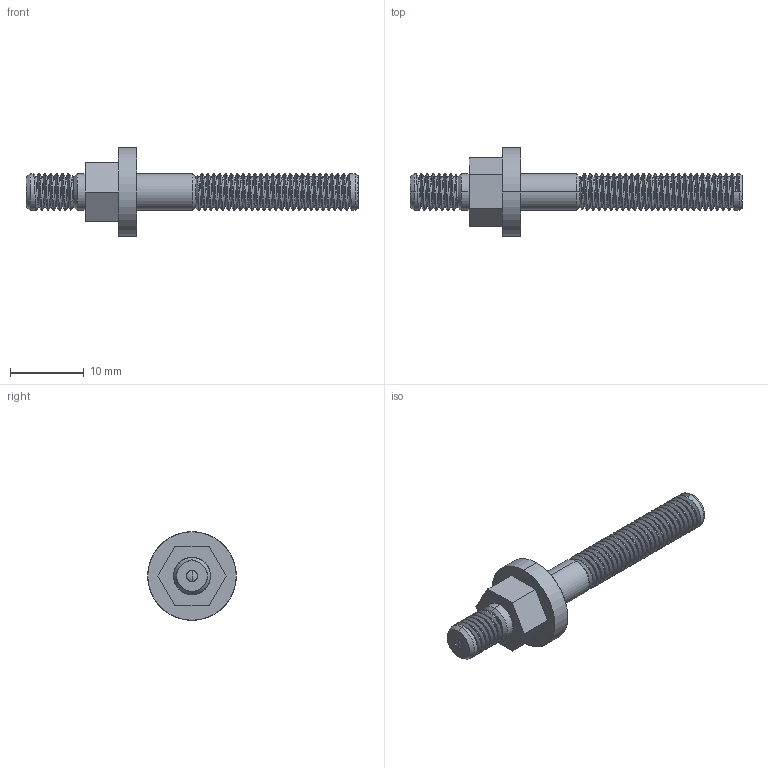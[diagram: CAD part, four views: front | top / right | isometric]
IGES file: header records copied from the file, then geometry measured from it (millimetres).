
Start section: SolidWorks IGES file using analytic representation for surfaces
Global section: file name: E:\00. WORK\04. 堡拳捞滚\堡拳捞滚 OMD\02. 权其捞瘤 档搁\3D\36.FU-VC02\FU-VC02.IGS,15HSolidWorks; native system: 2018; preprocessor: SolidWorks 2018; author: 10116024; date: 201209.165337; units: millimetre
Bounding box: 45 x 12 x 12 mm (x, y, z)
Surface area: 1292.2 mm2 (no closed solid volume)
Topology: 0 solids, 0 shells, 122 faces, 1829 edges, 1825 vertices
Faces by surface type: revolution 94, bspline 28
